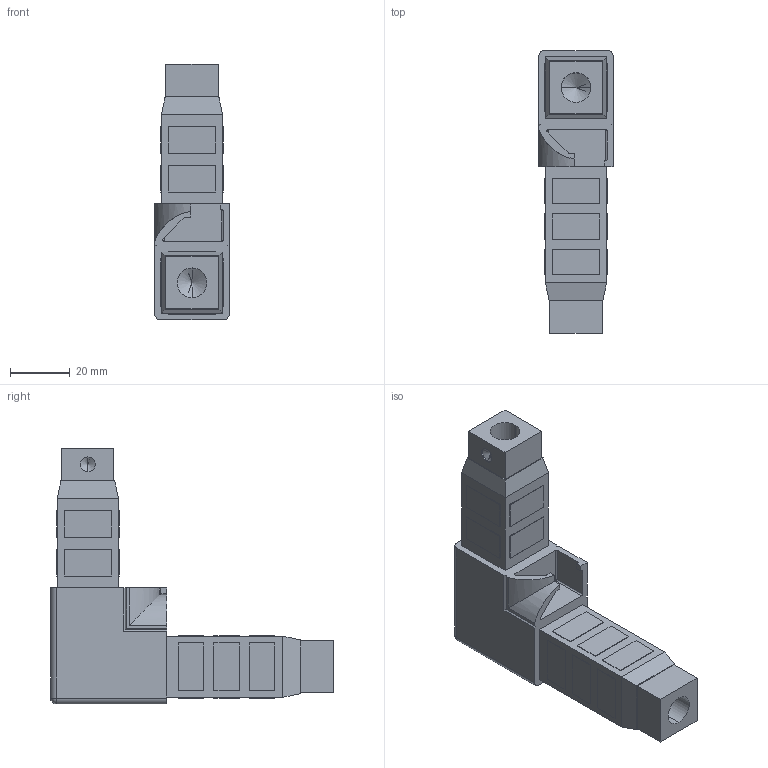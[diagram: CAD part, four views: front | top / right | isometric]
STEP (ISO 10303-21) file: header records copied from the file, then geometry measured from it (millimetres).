
FILE_DESCRIPTION (( 'STEP AP203' ), '1' );
FILE_NAME ('F025105.STEP', '2017-03-22T12:38:01', ( 'Localadmin' ), ( 'Microsoft' ), 'SwSTEP 2.0', 'SolidWorks 2016', '' );
FILE_SCHEMA (( 'CONFIG_CONTROL_DESIGN' ));
Length unit declared in the file: millimetre
Products named in the file (1): F025105
Bounding box: 25 x 95 x 86 mm (x, y, z)
Volume: 65396.7 mm3; surface area: 38353.7 mm2
Topology: 2 solids, 2 shells, 194 faces, 475 edges, 303 vertices
Faces by surface type: plane 160, cylinder 26, cone 6, sphere 2
Entity records: 5615 total; most frequent: CARTESIAN_POINT 983, ORIENTED_EDGE 934, DIRECTION 892, EDGE_CURVE 467, LINE 420, VECTOR 420, VERTEX_POINT 303, AXIS2_PLACEMENT_3D 236
